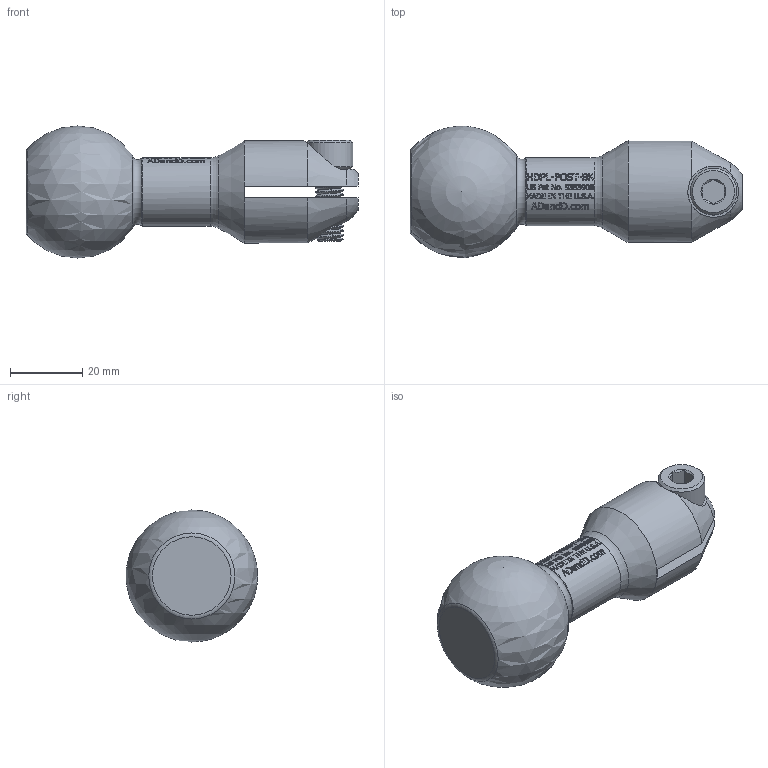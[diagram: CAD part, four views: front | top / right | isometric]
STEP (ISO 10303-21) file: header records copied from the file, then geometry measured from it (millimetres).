
FILE_DESCRIPTION(/* description */ (''),/* implementation_level */ '2;1');
FILE_NAME(/* name */ 'C:\Users\owner\Desktop\HDPL-POSTS_3D_stp\HDPL-SPOST-BK.stp',/* time_stamp */ '2017-10-02T09:20:59-04:00',/* author */ ('owner'),/* organization */ (''),/* preprocessor_version */ 'ST-DEVELOPER v16.5',/* originating_system */ 'Autodesk Inventor 2017',/* authorisation */ '');
FILE_SCHEMA (('CONFIG_CONTROL_DESIGN'));
Length unit declared in the file: inch
Products named in the file (3): HDPL-SPOST-BK; 60060; 60077
Assembly tree (2 placements, depth 2):
  HDPL-SPOST-BK
    60060
    60077
Bounding box: 92.17 x 36.46 x 36.65 mm (x, y, z)
Volume: 48436.9 mm3; surface area: 11699.2 mm2
Topology: 2 solids, 2 shells, 839 faces, 2264 edges, 1503 vertices
Faces by surface type: bspline 394, plane 341, cylinder 83, cone 13, torus 5, sphere 3
Full cylindrical faces by diameter (mm): 6.655 x1, 8.731 x1, 13 x1, 18.923 x1, 28.341 x1
Entity records: 38978 total; most frequent: CARTESIAN_POINT 20235, ORIENTED_EDGE 4482, DIRECTION 2717, EDGE_CURVE 2241, VERTEX_POINT 1495, LINE 1075, VECTOR 1075, EDGE_LOOP 932
